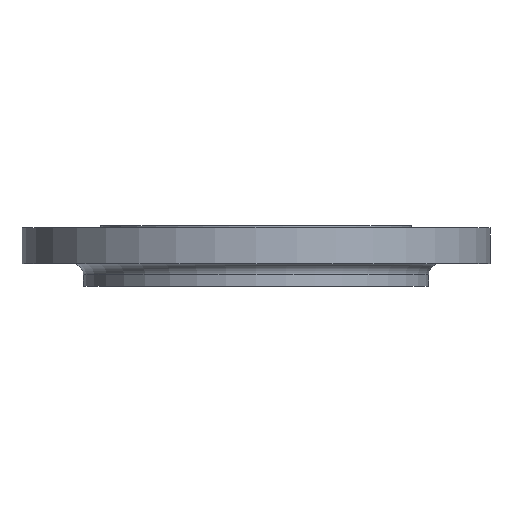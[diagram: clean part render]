
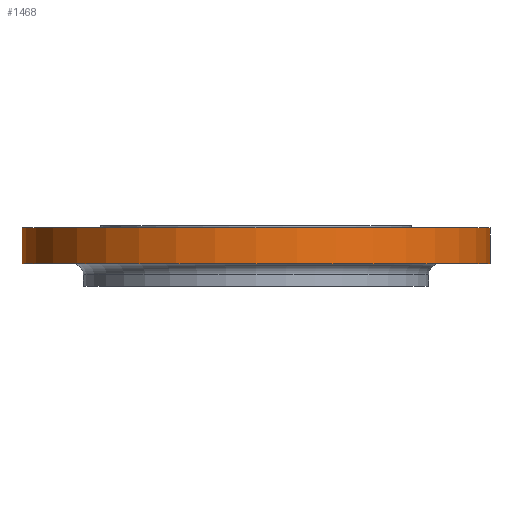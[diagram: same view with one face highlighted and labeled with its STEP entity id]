
A CAD part, front view. The second image highlights one B-rep face of the part: STEP entity #1468.
In plain terms, the highlighted cylindrical face has radius 257.5 mm (diameter 515 mm), a partial arc.
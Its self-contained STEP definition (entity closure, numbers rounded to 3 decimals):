
#40 = AXIS2_PLACEMENT_3D ( 'NONE', #200, #198, #197 ) ;
#147 = DIRECTION ( 'NONE',  ( -1., 0., 0. ) ) ;
#148 = DIRECTION ( 'NONE',  ( 0., 0., -1. ) ) ;
#150 = CARTESIAN_POINT ( 'NONE',  ( 0., 0., -2.5 ) ) ;
#171 = CARTESIAN_POINT ( 'NONE',  ( 257.5, 0., -2.5 ) ) ;
#197 = DIRECTION ( 'NONE',  ( 1., 0., 0. ) ) ;
#198 = DIRECTION ( 'NONE',  ( 0., 0., 1. ) ) ;
#200 = CARTESIAN_POINT ( 'NONE',  ( 0., 0., -125. ) ) ;
#201 = CYLINDRICAL_SURFACE ( 'NONE', #40, 257.5 ) ;
#203 = FACE_OUTER_BOUND ( 'NONE', #1563, .T. ) ;
#218 = CARTESIAN_POINT ( 'NONE',  ( 257.5, 0., -42. ) ) ;
#319 = CARTESIAN_POINT ( 'NONE',  ( -257.5, 0., -42. ) ) ;
#393 = VECTOR ( 'NONE', #1664, 1000. ) ;
#490 = EDGE_CURVE ( 'NONE', #1445, #1519, #1666, .T. ) ;
#681 = VERTEX_POINT ( 'NONE', #1531 ) ;
#878 = DIRECTION ( 'NONE',  ( 0., 0., 1. ) ) ;
#881 = CARTESIAN_POINT ( 'NONE',  ( -257.5, 0., -125. ) ) ;
#882 = EDGE_CURVE ( 'NONE', #1289, #1445, #1461, .T. ) ;
#886 = LINE ( 'NONE', #881, #1157 ) ;
#979 = ORIENTED_EDGE ( 'NONE', *, *, #882, .T. ) ;
#984 = ORIENTED_EDGE ( 'NONE', *, *, #1074, .F. ) ;
#1040 = DIRECTION ( 'NONE',  ( 1., 0., 0. ) ) ;
#1054 = DIRECTION ( 'NONE',  ( 0., 0., 1. ) ) ;
#1055 = CARTESIAN_POINT ( 'NONE',  ( 0., 0., -42. ) ) ;
#1074 = EDGE_CURVE ( 'NONE', #1289, #681, #886, .T. ) ;
#1116 = ORIENTED_EDGE ( 'NONE', *, *, #1567, .T. ) ;
#1157 = VECTOR ( 'NONE', #878, 1000. ) ;
#1186 = ORIENTED_EDGE ( 'NONE', *, *, #490, .T. ) ;
#1289 = VERTEX_POINT ( 'NONE', #319 ) ;
#1445 = VERTEX_POINT ( 'NONE', #218 ) ;
#1460 = AXIS2_PLACEMENT_3D ( 'NONE', #1055, #1054, #1040 ) ;
#1461 = CIRCLE ( 'NONE', #1460, 257.5 ) ;
#1468 = ADVANCED_FACE ( 'NONE', ( #203 ), #201, .T. ) ;
#1519 = VERTEX_POINT ( 'NONE', #171 ) ;
#1531 = CARTESIAN_POINT ( 'NONE',  ( -257.5, 0., -2.5 ) ) ;
#1563 = EDGE_LOOP ( 'NONE', ( #984, #979, #1186, #1116 ) ) ;
#1567 = EDGE_CURVE ( 'NONE', #1519, #681, #1622, .T. ) ;
#1571 = AXIS2_PLACEMENT_3D ( 'NONE', #150, #148, #147 ) ;
#1622 = CIRCLE ( 'NONE', #1571, 257.5 ) ;
#1664 = DIRECTION ( 'NONE',  ( 0., 0., 1. ) ) ;
#1665 = CARTESIAN_POINT ( 'NONE',  ( 257.5, 0., -125. ) ) ;
#1666 = LINE ( 'NONE', #1665, #393 ) ;
